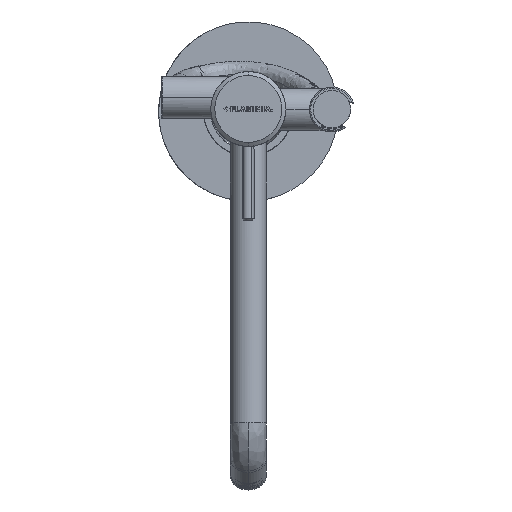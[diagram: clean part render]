
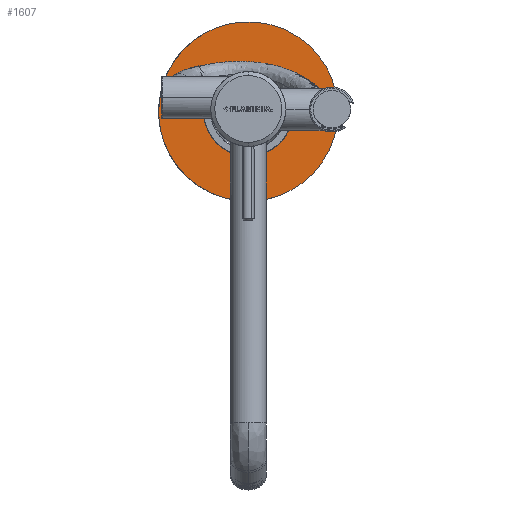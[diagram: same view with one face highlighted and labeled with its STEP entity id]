
A CAD part, top view. The second image highlights one B-rep face of the part: STEP entity #1607.
In plain terms, the highlighted planar face has unit normal (0, 0, 1).
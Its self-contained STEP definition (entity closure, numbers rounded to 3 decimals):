
#760=FACE_BOUND('',#3674,.T.);
#1607=ADVANCED_FACE('',(#2571,#760),#15084,.T.);
#2571=FACE_OUTER_BOUND('',#3673,.T.);
#3673=EDGE_LOOP('',(#7395,#7396));
#3674=EDGE_LOOP('',(#7397,#7398));
#7395=ORIENTED_EDGE('',*,*,#9991,.T.);
#7396=ORIENTED_EDGE('',*,*,#9983,.F.);
#7397=ORIENTED_EDGE('',*,*,#9990,.T.);
#7398=ORIENTED_EDGE('',*,*,#9989,.T.);
#9983=EDGE_CURVE('',#14264,#14265,#12835,.T.);
#9989=EDGE_CURVE('',#14270,#14271,#12839,.T.);
#9990=EDGE_CURVE('',#14271,#14270,#12840,.T.);
#9991=EDGE_CURVE('',#14264,#14265,#12841,.T.);
#12835=(
BOUNDED_CURVE()
B_SPLINE_CURVE(2,(#39284,#39285,#39286,#39287,#39288),.UNSPECIFIED.,.F.,
 .F.)
B_SPLINE_CURVE_WITH_KNOTS((3,2,3),(0.,94.248,188.496),
 .UNSPECIFIED.)
CURVE()
GEOMETRIC_REPRESENTATION_ITEM()
RATIONAL_B_SPLINE_CURVE((1.,0.707,1.,0.707,1.))
REPRESENTATION_ITEM('')
);
#12839=(
BOUNDED_CURVE()
B_SPLINE_CURVE(2,(#39308,#39309,#39310,#39311,#39312),.UNSPECIFIED.,.F.,
 .F.)
B_SPLINE_CURVE_WITH_KNOTS((3,2,3),(0.,43.197,86.394),
 .UNSPECIFIED.)
CURVE()
GEOMETRIC_REPRESENTATION_ITEM()
RATIONAL_B_SPLINE_CURVE((1.,0.707,1.,0.707,1.))
REPRESENTATION_ITEM('')
);
#12840=(
BOUNDED_CURVE()
B_SPLINE_CURVE(2,(#39313,#39314,#39315,#39316,#39317),.UNSPECIFIED.,.F.,
 .F.)
B_SPLINE_CURVE_WITH_KNOTS((3,2,3),(0.,43.197,86.394),
 .UNSPECIFIED.)
CURVE()
GEOMETRIC_REPRESENTATION_ITEM()
RATIONAL_B_SPLINE_CURVE((1.,0.707,1.,0.707,1.))
REPRESENTATION_ITEM('')
);
#12841=(
BOUNDED_CURVE()
B_SPLINE_CURVE(2,(#39318,#39319,#39320,#39321,#39322),.UNSPECIFIED.,.F.,
 .F.)
B_SPLINE_CURVE_WITH_KNOTS((3,2,3),(-188.496,-94.248,
0.),.UNSPECIFIED.)
CURVE()
GEOMETRIC_REPRESENTATION_ITEM()
RATIONAL_B_SPLINE_CURVE((1.,0.707,1.,0.707,1.))
REPRESENTATION_ITEM('')
);
#14264=VERTEX_POINT('',#39276);
#14265=VERTEX_POINT('',#39277);
#14270=VERTEX_POINT('',#39282);
#14271=VERTEX_POINT('',#39283);
#15084=PLANE('',#16079);
#16079=AXIS2_PLACEMENT_3D('',#39274,#16760,$);
#16760=DIRECTION('',(0.,0.,1.));
#39274=CARTESIAN_POINT('',(181.652,-51.114,15.));
#39276=CARTESIAN_POINT('',(29.349,-52.332,15.));
#39277=CARTESIAN_POINT('',(-29.349,52.332,15.));
#39282=CARTESIAN_POINT('',(13.451,-23.986,15.));
#39283=CARTESIAN_POINT('',(-13.451,23.986,15.));
#39284=CARTESIAN_POINT('',(29.349,-52.332,15.));
#39285=CARTESIAN_POINT('',(-22.984,-81.681,15.));
#39286=CARTESIAN_POINT('',(-52.332,-29.349,15.));
#39287=CARTESIAN_POINT('',(-81.681,22.984,15.));
#39288=CARTESIAN_POINT('',(-29.349,52.332,15.));
#39308=CARTESIAN_POINT('',(13.451,-23.986,15.));
#39309=CARTESIAN_POINT('',(-10.534,-37.437,15.));
#39310=CARTESIAN_POINT('',(-23.986,-13.451,15.));
#39311=CARTESIAN_POINT('',(-37.437,10.534,15.));
#39312=CARTESIAN_POINT('',(-13.451,23.986,15.));
#39313=CARTESIAN_POINT('',(-13.451,23.986,15.));
#39314=CARTESIAN_POINT('',(10.534,37.437,15.));
#39315=CARTESIAN_POINT('',(23.986,13.451,15.));
#39316=CARTESIAN_POINT('',(37.437,-10.534,15.));
#39317=CARTESIAN_POINT('',(13.451,-23.986,15.));
#39318=CARTESIAN_POINT('',(29.349,-52.332,15.));
#39319=CARTESIAN_POINT('',(81.681,-22.984,15.));
#39320=CARTESIAN_POINT('',(52.332,29.349,15.));
#39321=CARTESIAN_POINT('',(22.984,81.681,15.));
#39322=CARTESIAN_POINT('',(-29.349,52.332,15.));
